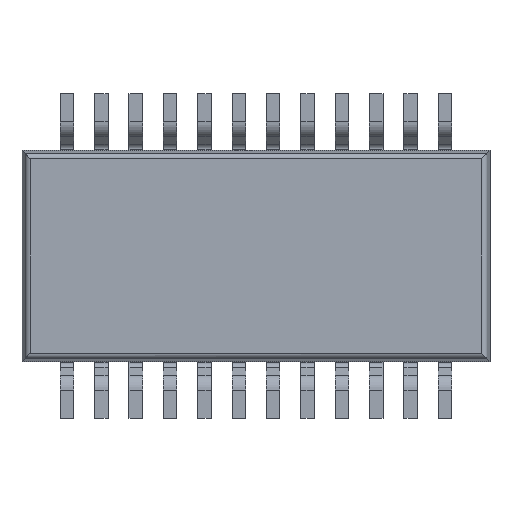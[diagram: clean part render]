
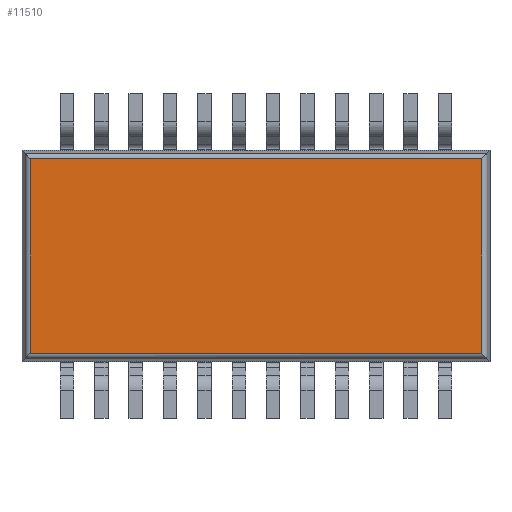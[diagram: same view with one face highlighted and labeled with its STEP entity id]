
A CAD part, front view. The second image highlights one B-rep face of the part: STEP entity #11510.
In plain terms, the highlighted planar face has unit normal (0, -1, 0).
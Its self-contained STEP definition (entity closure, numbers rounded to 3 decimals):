
#11471 = CARTESIAN_POINT ( 'NONE',  ( 4.171, 0.1, -1.796 ) ) ;
#11472 = VERTEX_POINT ( 'NONE', #11471 ) ;
#11473 = CARTESIAN_POINT ( 'NONE',  ( 4.171, 0.1, 1.796 ) ) ;
#11474 = VERTEX_POINT ( 'NONE', #11473 ) ;
#11475 = CARTESIAN_POINT ( 'NONE',  ( 4.171, 0.1, 0. ) ) ;
#11476 = DIRECTION ( 'NONE',  ( 0., 0., 1. ) ) ;
#11477 = VECTOR ( 'NONE', #11476, 1000. ) ;
#11478 = LINE ( 'NONE', #11475, #11477 ) ;
#11479 = EDGE_CURVE ( 'NONE', #11472, #11474, #11478, .T. ) ;
#11480 = ORIENTED_EDGE ( 'NONE', *, *, #11479, .T. ) ;
#11481 = CARTESIAN_POINT ( 'NONE',  ( -4.171, 0.1, 1.796 ) ) ;
#11482 = VERTEX_POINT ( 'NONE', #11481 ) ;
#11483 = CARTESIAN_POINT ( 'NONE',  ( 0., 0.1, 1.796 ) ) ;
#11484 = DIRECTION ( 'NONE',  ( -1., 0., 0. ) ) ;
#11485 = VECTOR ( 'NONE', #11484, 1000. ) ;
#11486 = LINE ( 'NONE', #11483, #11485 ) ;
#11487 = EDGE_CURVE ( 'NONE', #11474, #11482, #11486, .T. ) ;
#11488 = ORIENTED_EDGE ( 'NONE', *, *, #11487, .T. ) ;
#11489 = CARTESIAN_POINT ( 'NONE',  ( -4.171, 0.1, -1.796 ) ) ;
#11490 = VERTEX_POINT ( 'NONE', #11489 ) ;
#11491 = CARTESIAN_POINT ( 'NONE',  ( -4.171, 0.1, 0. ) ) ;
#11492 = DIRECTION ( 'NONE',  ( 0., 0., -1. ) ) ;
#11493 = VECTOR ( 'NONE', #11492, 1000. ) ;
#11494 = LINE ( 'NONE', #11491, #11493 ) ;
#11495 = EDGE_CURVE ( 'NONE', #11482, #11490, #11494, .T. ) ;
#11496 = ORIENTED_EDGE ( 'NONE', *, *, #11495, .T. ) ;
#11497 = CARTESIAN_POINT ( 'NONE',  ( 0., 0.1, -1.796 ) ) ;
#11498 = DIRECTION ( 'NONE',  ( 1., 0., 0. ) ) ;
#11499 = VECTOR ( 'NONE', #11498, 1000. ) ;
#11500 = LINE ( 'NONE', #11497, #11499 ) ;
#11501 = EDGE_CURVE ( 'NONE', #11490, #11472, #11500, .T. ) ;
#11502 = ORIENTED_EDGE ( 'NONE', *, *, #11501, .T. ) ;
#11503 = EDGE_LOOP ( 'NONE', ( #11480, #11488, #11496, #11502 ) ) ;
#11504 = FACE_OUTER_BOUND ( 'NONE', #11503, .T. ) ;
#11505 = CARTESIAN_POINT ( 'NONE',  ( 0., 0.1, 0. ) ) ;
#11506 = DIRECTION ( 'NONE',  ( 0., -1., 0. ) ) ;
#11507 = DIRECTION ( 'NONE',  ( 0., 0., -1. ) ) ;
#11508 = AXIS2_PLACEMENT_3D ( 'NONE', #11505, #11506, #11507 ) ;
#11509 = PLANE ( 'NONE', #11508 ) ;
#11510 = ADVANCED_FACE ( 'NONE', ( #11504 ), #11509, .T. ) ;
